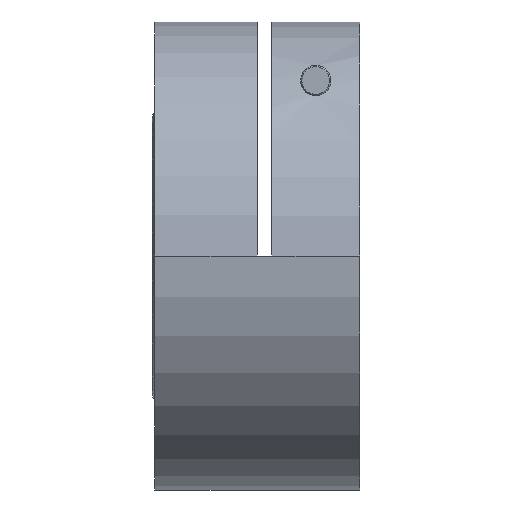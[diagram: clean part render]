
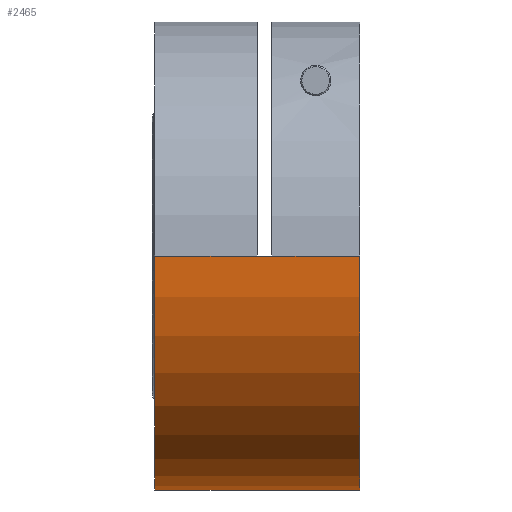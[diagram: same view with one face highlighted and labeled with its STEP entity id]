
A CAD part, left-side view. The second image highlights one B-rep face of the part: STEP entity #2465.
In plain terms, the highlighted cylindrical face has radius 25.4 mm (diameter 50.8 mm), a partial arc.
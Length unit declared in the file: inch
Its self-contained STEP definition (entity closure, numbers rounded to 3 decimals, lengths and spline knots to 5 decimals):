
#78 = LINE ( 'NONE', #2320, #1761 ) ;
#82 = EDGE_CURVE ( 'NONE', #3180, #542, #2668, .T. ) ;
#83 = CARTESIAN_POINT ( 'NONE',  ( 1., 0.875, 0. ) ) ;
#93 = CIRCLE ( 'NONE', #1604, 1. ) ;
#117 = DIRECTION ( 'NONE',  ( 0., 1., 0. ) ) ;
#132 = VECTOR ( 'NONE', #2031, 39.37008 ) ;
#150 = VERTEX_POINT ( 'NONE', #465 ) ;
#215 = ORIENTED_EDGE ( 'NONE', *, *, #2283, .T. ) ;
#259 = DIRECTION ( 'NONE',  ( -1., 0., 0. ) ) ;
#269 = CARTESIAN_POINT ( 'NONE',  ( 0., 0., 0. ) ) ;
#374 = ORIENTED_EDGE ( 'NONE', *, *, #3182, .T. ) ;
#413 = EDGE_LOOP ( 'NONE', ( #1369, #215, #374, #1404, #2835, #766, #2171, #3060 ) ) ;
#417 = VERTEX_POINT ( 'NONE', #83 ) ;
#465 = CARTESIAN_POINT ( 'NONE',  ( 1., 0.375, 0. ) ) ;
#542 = VERTEX_POINT ( 'NONE', #3065 ) ;
#559 = CARTESIAN_POINT ( 'NONE',  ( 1., 0.875, 0. ) ) ;
#725 = EDGE_CURVE ( 'NONE', #150, #1286, #2042, .T. ) ;
#743 = VECTOR ( 'NONE', #1749, 39.37008 ) ;
#766 = ORIENTED_EDGE ( 'NONE', *, *, #2805, .F. ) ;
#778 = DIRECTION ( 'NONE',  ( -1., 0., 0. ) ) ;
#791 = FACE_OUTER_BOUND ( 'NONE', #413, .T. ) ;
#1038 = DIRECTION ( 'NONE',  ( -1., 0., 0. ) ) ;
#1103 = AXIS2_PLACEMENT_3D ( 'NONE', #1486, #1717, #778 ) ;
#1111 = DIRECTION ( 'NONE',  ( 0., 1., 0. ) ) ;
#1222 = DIRECTION ( 'NONE',  ( 0., 1., 0. ) ) ;
#1240 = CYLINDRICAL_SURFACE ( 'NONE', #1690, 1. ) ;
#1286 = VERTEX_POINT ( 'NONE', #1315 ) ;
#1292 = DIRECTION ( 'NONE',  ( 0., 1., 0. ) ) ;
#1315 = CARTESIAN_POINT ( 'NONE',  ( 1., 0.4375, 0. ) ) ;
#1332 = EDGE_CURVE ( 'NONE', #2685, #150, #78, .T. ) ;
#1356 = CIRCLE ( 'NONE', #1103, 1. ) ;
#1369 = ORIENTED_EDGE ( 'NONE', *, *, #1332, .F. ) ;
#1404 = ORIENTED_EDGE ( 'NONE', *, *, #82, .T. ) ;
#1422 = CARTESIAN_POINT ( 'NONE',  ( -1., 0.875, 0. ) ) ;
#1467 = VERTEX_POINT ( 'NONE', #3166 ) ;
#1486 = CARTESIAN_POINT ( 'NONE',  ( 0., 0.875, 0. ) ) ;
#1528 = CARTESIAN_POINT ( 'NONE',  ( 0., 0.875, 0. ) ) ;
#1604 = AXIS2_PLACEMENT_3D ( 'NONE', #269, #2969, #259 ) ;
#1690 = AXIS2_PLACEMENT_3D ( 'NONE', #1528, #3020, #1038 ) ;
#1717 = DIRECTION ( 'NONE',  ( 0., 1., 0. ) ) ;
#1749 = DIRECTION ( 'NONE',  ( 0., 1., 0. ) ) ;
#1761 = VECTOR ( 'NONE', #117, 39.37008 ) ;
#1965 = CARTESIAN_POINT ( 'NONE',  ( -1., 0.375, 0. ) ) ;
#2001 = CARTESIAN_POINT ( 'NONE',  ( -1., 0.875, 0. ) ) ;
#2031 = DIRECTION ( 'NONE',  ( 0., 1., 0. ) ) ;
#2042 = LINE ( 'NONE', #2995, #743 ) ;
#2048 = LINE ( 'NONE', #559, #2516 ) ;
#2164 = LINE ( 'NONE', #2813, #2669 ) ;
#2171 = ORIENTED_EDGE ( 'NONE', *, *, #3000, .F. ) ;
#2251 = VERTEX_POINT ( 'NONE', #1422 ) ;
#2283 = EDGE_CURVE ( 'NONE', #2685, #1467, #93, .T. ) ;
#2320 = CARTESIAN_POINT ( 'NONE',  ( 1., 0.875, 0. ) ) ;
#2465 = ADVANCED_FACE ( 'NONE', ( #791 ), #1240, .T. ) ;
#2496 = EDGE_CURVE ( 'NONE', #542, #2251, #2759, .T. ) ;
#2516 = VECTOR ( 'NONE', #1292, 39.37008 ) ;
#2583 = CARTESIAN_POINT ( 'NONE',  ( -1., 0.375, 0. ) ) ;
#2668 = LINE ( 'NONE', #1965, #3019 ) ;
#2669 = VECTOR ( 'NONE', #1111, 39.37008 ) ;
#2685 = VERTEX_POINT ( 'NONE', #2859 ) ;
#2759 = LINE ( 'NONE', #2001, #132 ) ;
#2805 = EDGE_CURVE ( 'NONE', #417, #2251, #1356, .T. ) ;
#2813 = CARTESIAN_POINT ( 'NONE',  ( -1., 0.875, 0. ) ) ;
#2835 = ORIENTED_EDGE ( 'NONE', *, *, #2496, .T. ) ;
#2859 = CARTESIAN_POINT ( 'NONE',  ( 1., 0., 0. ) ) ;
#2969 = DIRECTION ( 'NONE',  ( 0., 1., 0. ) ) ;
#2995 = CARTESIAN_POINT ( 'NONE',  ( 1., 0.375, 0. ) ) ;
#3000 = EDGE_CURVE ( 'NONE', #1286, #417, #2048, .T. ) ;
#3019 = VECTOR ( 'NONE', #1222, 39.37008 ) ;
#3020 = DIRECTION ( 'NONE',  ( 0., 1., 0. ) ) ;
#3060 = ORIENTED_EDGE ( 'NONE', *, *, #725, .F. ) ;
#3065 = CARTESIAN_POINT ( 'NONE',  ( -1., 0.4375, 0. ) ) ;
#3166 = CARTESIAN_POINT ( 'NONE',  ( -1., 0., 0. ) ) ;
#3180 = VERTEX_POINT ( 'NONE', #2583 ) ;
#3182 = EDGE_CURVE ( 'NONE', #1467, #3180, #2164, .T. ) ;
